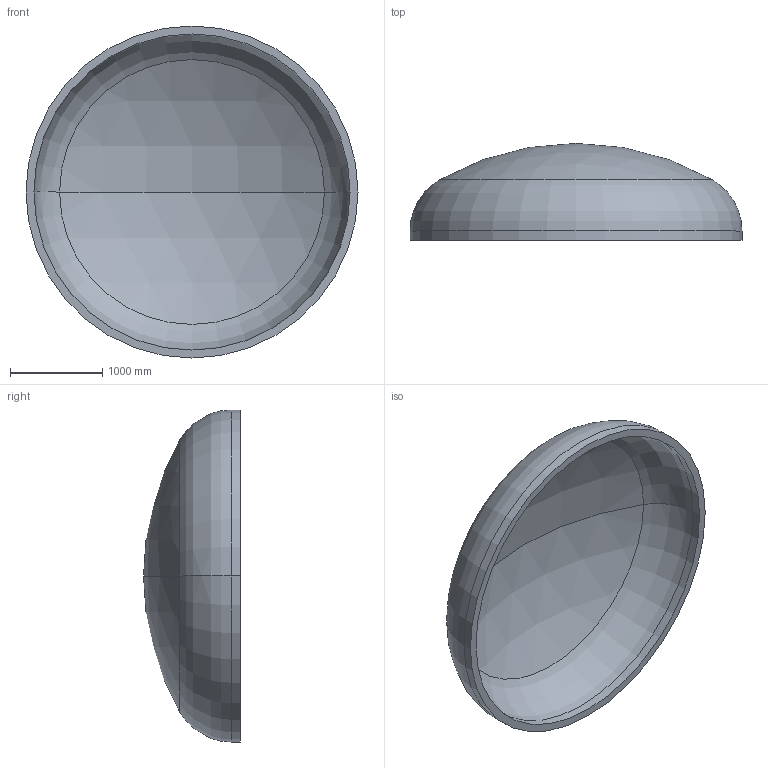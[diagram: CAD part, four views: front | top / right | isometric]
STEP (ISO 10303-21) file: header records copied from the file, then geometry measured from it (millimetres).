
FILE_DESCRIPTION (( 'STEP AP203' ), '1' );
FILE_NAME ('DIN 28013 Korbbogenform_-_Boden DIN 28013 - 3600 x 100 - I - s=86.step', '2016-07-01T20:44:11', ( '' ), ( '' ), 'SwSTEP 2.0', 'SolidWorks 2013', '' );
FILE_SCHEMA (( 'CONFIG_CONTROL_DESIGN' ));
Length unit declared in the file: millimetre
Products named in the file (1): DIN 28013 Korbbogenform_-_Boden DIN 28013 - 3600 x 100 - I - s=86
Bounding box: 3600 x 1050.47 x 3600 mm (x, y, z)
Volume: 1270143062.2 mm3; surface area: 30503092.6 mm2
Topology: 1 solids, 1 shells, 13 faces, 24 edges, 14 vertices
Faces by surface type: torus 4, cylinder 4, sphere 4, plane 1
Entity records: 407 total; most frequent: DIRECTION 72, CARTESIAN_POINT 52, ORIENTED_EDGE 48, AXIS2_PLACEMENT_3D 34, EDGE_CURVE 24, CIRCLE 20, VERTEX_POINT 14, EDGE_LOOP 14
